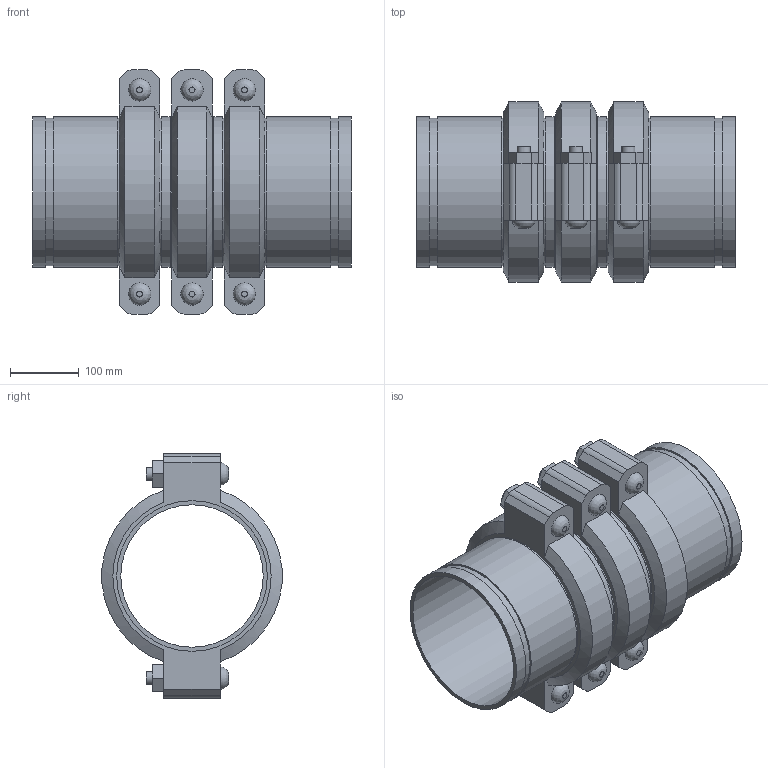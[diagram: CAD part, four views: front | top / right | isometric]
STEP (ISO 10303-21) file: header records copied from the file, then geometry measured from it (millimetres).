
FILE_DESCRIPTION(/* description */ ('VIC EXPANSION JOINT 3 COUPLINGS EXPANDED STYLE 155 (OGS)','CAx-IF Rec.Pracs.---Representation and Presentation of Product Manufacturing Information (PMI)---4.0---2014-10-13'),/* implementation_level */ '2;1');
FILE_NAME(/* name */ 'C:\Users\kkamble\AppData\Roaming\Autodesk\ApplicationPlugins\Victaulic.Temp\A258\Victaulic_IPS_Expansion Joint_Expanded_3 Couplings_Style 155 (OGS)_8 (200).stp',/* time_stamp */ '2021-06-26T23:58:55+02:00',/* author */ ('kkamble'),/* organization */ ('Victaulic'),/* preprocessor_version */ 'ST-DEVELOPER v17.2',/* originating_system */ 'Autodesk Inventor 2019',/* authorisation */ '');
FILE_SCHEMA (('AP242_MANAGED_MODEL_BASED_3D_ENGINEERING_MIM_LF { 1 0 10303 442 1 1 4 }'));
Length unit declared in the file: inch
Products named in the file (4): 155-08.0; Nipple-08.0; Nipple-08.0_1; 075-08.0
Assembly tree (7 placements, depth 2):
  155-08.0
    Nipple-08.0  x2
    Nipple-08.0_1  x2
    075-08.0  x3
Bounding box: 463.55 x 261.72 x 354.84 mm (x, y, z)
Volume: 5860351.7 mm3; surface area: 1177871.7 mm2
Topology: 7 solids, 13 shells, 219 faces, 519 edges, 366 vertices
Faces by surface type: plane 132, cylinder 69, cone 12, bspline 6
Full cylindrical faces by diameter (mm): 19.05 x12, 21.209 x6, 206.985 x4, 212.725 x3, 214.401 x8, 219.075 x18
Entity records: 2769 total; most frequent: CARTESIAN_POINT 491, DIRECTION 457, ORIENTED_EDGE 386, EDGE_CURVE 193, AXIS2_PLACEMENT_3D 182, VERTEX_POINT 138, EDGE_LOOP 107, LINE 93
